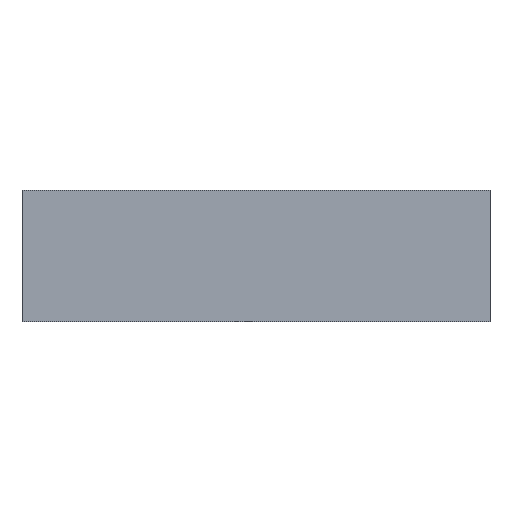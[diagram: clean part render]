
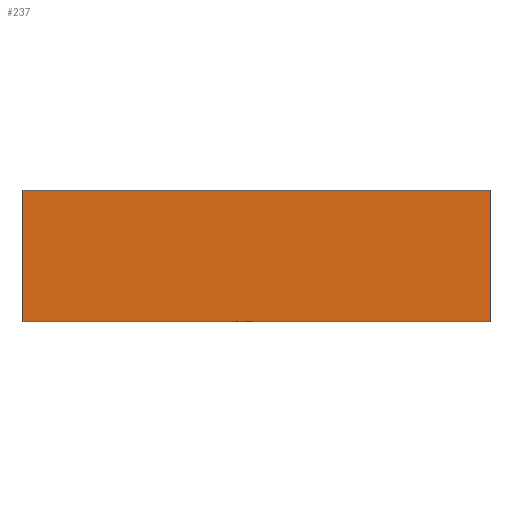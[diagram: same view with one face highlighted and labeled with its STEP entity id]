
A CAD part, front view. The second image highlights one B-rep face of the part: STEP entity #237.
In plain terms, the highlighted planar face has unit normal (0, -1, 0).
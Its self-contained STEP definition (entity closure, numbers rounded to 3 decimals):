
#21 = EDGE_CURVE('',#22,#24,#26,.T.);
#22 = VERTEX_POINT('',#23);
#23 = CARTESIAN_POINT('',(5.15,-42.9,3.5));
#24 = VERTEX_POINT('',#25);
#25 = CARTESIAN_POINT('',(5.15,-42.9,3.78));
#26 = SURFACE_CURVE('',#27,(#31,#43),.PCURVE_S1.);
#27 = LINE('',#28,#29);
#28 = CARTESIAN_POINT('',(5.15,-42.9,3.5));
#29 = VECTOR('',#30,1.);
#30 = DIRECTION('',(0.,0.,1.));
#31 = PCURVE('',#32,#37);
#32 = PLANE('',#33);
#33 = AXIS2_PLACEMENT_3D('',#34,#35,#36);
#34 = CARTESIAN_POINT('',(5.15,-42.9,3.5));
#35 = DIRECTION('',(1.,0.,0.));
#36 = DIRECTION('',(0.,0.,1.));
#37 = DEFINITIONAL_REPRESENTATION('',(#38),#42);
#38 = LINE('',#39,#40);
#39 = CARTESIAN_POINT('',(0.,0.));
#40 = VECTOR('',#41,1.);
#41 = DIRECTION('',(1.,0.));
#42 = ( GEOMETRIC_REPRESENTATION_CONTEXT(2) 
PARAMETRIC_REPRESENTATION_CONTEXT() REPRESENTATION_CONTEXT('2D SPACE',''
  ) );
#43 = PCURVE('',#44,#49);
#44 = PLANE('',#45);
#45 = AXIS2_PLACEMENT_3D('',#46,#47,#48);
#46 = CARTESIAN_POINT('',(5.15,-42.9,3.5));
#47 = DIRECTION('',(0.,1.,0.));
#48 = DIRECTION('',(0.,-0.,1.));
#49 = DEFINITIONAL_REPRESENTATION('',(#50),#54);
#50 = LINE('',#51,#52);
#51 = CARTESIAN_POINT('',(0.,0.));
#52 = VECTOR('',#53,1.);
#53 = DIRECTION('',(1.,0.));
#54 = ( GEOMETRIC_REPRESENTATION_CONTEXT(2) 
PARAMETRIC_REPRESENTATION_CONTEXT() REPRESENTATION_CONTEXT('2D SPACE',''
  ) );
#72 = PLANE('',#73);
#73 = AXIS2_PLACEMENT_3D('',#74,#75,#76);
#74 = CARTESIAN_POINT('',(5.15,-42.9,3.5));
#75 = DIRECTION('',(0.,0.,1.));
#76 = DIRECTION('',(1.,0.,-0.));
#126 = PLANE('',#127);
#127 = AXIS2_PLACEMENT_3D('',#128,#129,#130);
#128 = CARTESIAN_POINT('',(5.15,-42.9,3.78));
#129 = DIRECTION('',(0.,0.,1.));
#130 = DIRECTION('',(1.,0.,-0.));
#141 = EDGE_CURVE('',#142,#144,#146,.T.);
#142 = VERTEX_POINT('',#143);
#143 = CARTESIAN_POINT('',(6.15,-42.9,3.5));
#144 = VERTEX_POINT('',#145);
#145 = CARTESIAN_POINT('',(6.15,-42.9,3.78));
#146 = SURFACE_CURVE('',#147,(#151,#163),.PCURVE_S1.);
#147 = LINE('',#148,#149);
#148 = CARTESIAN_POINT('',(6.15,-42.9,3.5));
#149 = VECTOR('',#150,1.);
#150 = DIRECTION('',(0.,0.,1.));
#151 = PCURVE('',#152,#157);
#152 = PLANE('',#153);
#153 = AXIS2_PLACEMENT_3D('',#154,#155,#156);
#154 = CARTESIAN_POINT('',(6.15,-42.9,3.5));
#155 = DIRECTION('',(1.,0.,0.));
#156 = DIRECTION('',(0.,0.,1.));
#157 = DEFINITIONAL_REPRESENTATION('',(#158),#162);
#158 = LINE('',#159,#160);
#159 = CARTESIAN_POINT('',(0.,0.));
#160 = VECTOR('',#161,1.);
#161 = DIRECTION('',(1.,0.));
#162 = ( GEOMETRIC_REPRESENTATION_CONTEXT(2) 
PARAMETRIC_REPRESENTATION_CONTEXT() REPRESENTATION_CONTEXT('2D SPACE',''
  ) );
#163 = PCURVE('',#44,#164);
#164 = DEFINITIONAL_REPRESENTATION('',(#165),#169);
#165 = LINE('',#166,#167);
#166 = CARTESIAN_POINT('',(0.,1.));
#167 = VECTOR('',#168,1.);
#168 = DIRECTION('',(1.,0.));
#169 = ( GEOMETRIC_REPRESENTATION_CONTEXT(2) 
PARAMETRIC_REPRESENTATION_CONTEXT() REPRESENTATION_CONTEXT('2D SPACE',''
  ) );
#237 = ADVANCED_FACE('',(#238),#44,.F.);
#238 = FACE_BOUND('',#239,.F.);
#239 = EDGE_LOOP('',(#240,#261,#262,#283));
#240 = ORIENTED_EDGE('',*,*,#241,.F.);
#241 = EDGE_CURVE('',#22,#142,#242,.T.);
#242 = SURFACE_CURVE('',#243,(#247,#254),.PCURVE_S1.);
#243 = LINE('',#244,#245);
#244 = CARTESIAN_POINT('',(5.15,-42.9,3.5));
#245 = VECTOR('',#246,1.);
#246 = DIRECTION('',(1.,0.,0.));
#247 = PCURVE('',#44,#248);
#248 = DEFINITIONAL_REPRESENTATION('',(#249),#253);
#249 = LINE('',#250,#251);
#250 = CARTESIAN_POINT('',(0.,0.));
#251 = VECTOR('',#252,1.);
#252 = DIRECTION('',(0.,1.));
#253 = ( GEOMETRIC_REPRESENTATION_CONTEXT(2) 
PARAMETRIC_REPRESENTATION_CONTEXT() REPRESENTATION_CONTEXT('2D SPACE',''
  ) );
#254 = PCURVE('',#72,#255);
#255 = DEFINITIONAL_REPRESENTATION('',(#256),#260);
#256 = LINE('',#257,#258);
#257 = CARTESIAN_POINT('',(0.,0.));
#258 = VECTOR('',#259,1.);
#259 = DIRECTION('',(1.,0.));
#260 = ( GEOMETRIC_REPRESENTATION_CONTEXT(2) 
PARAMETRIC_REPRESENTATION_CONTEXT() REPRESENTATION_CONTEXT('2D SPACE',''
  ) );
#261 = ORIENTED_EDGE('',*,*,#21,.T.);
#262 = ORIENTED_EDGE('',*,*,#263,.T.);
#263 = EDGE_CURVE('',#24,#144,#264,.T.);
#264 = SURFACE_CURVE('',#265,(#269,#276),.PCURVE_S1.);
#265 = LINE('',#266,#267);
#266 = CARTESIAN_POINT('',(5.15,-42.9,3.78));
#267 = VECTOR('',#268,1.);
#268 = DIRECTION('',(1.,0.,0.));
#269 = PCURVE('',#44,#270);
#270 = DEFINITIONAL_REPRESENTATION('',(#271),#275);
#271 = LINE('',#272,#273);
#272 = CARTESIAN_POINT('',(0.28,0.));
#273 = VECTOR('',#274,1.);
#274 = DIRECTION('',(0.,1.));
#275 = ( GEOMETRIC_REPRESENTATION_CONTEXT(2) 
PARAMETRIC_REPRESENTATION_CONTEXT() REPRESENTATION_CONTEXT('2D SPACE',''
  ) );
#276 = PCURVE('',#126,#277);
#277 = DEFINITIONAL_REPRESENTATION('',(#278),#282);
#278 = LINE('',#279,#280);
#279 = CARTESIAN_POINT('',(0.,0.));
#280 = VECTOR('',#281,1.);
#281 = DIRECTION('',(1.,0.));
#282 = ( GEOMETRIC_REPRESENTATION_CONTEXT(2) 
PARAMETRIC_REPRESENTATION_CONTEXT() REPRESENTATION_CONTEXT('2D SPACE',''
  ) );
#283 = ORIENTED_EDGE('',*,*,#141,.F.);
